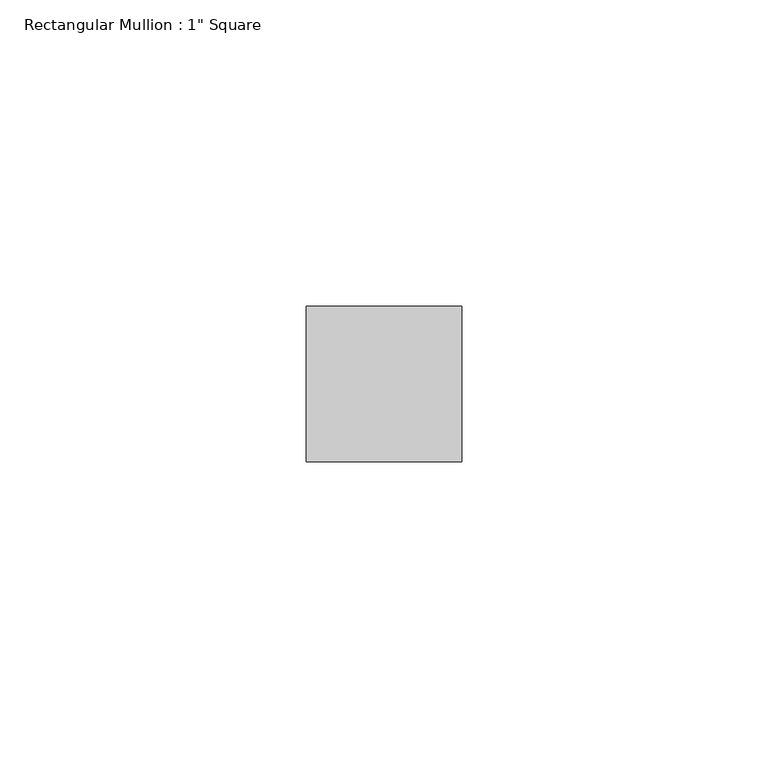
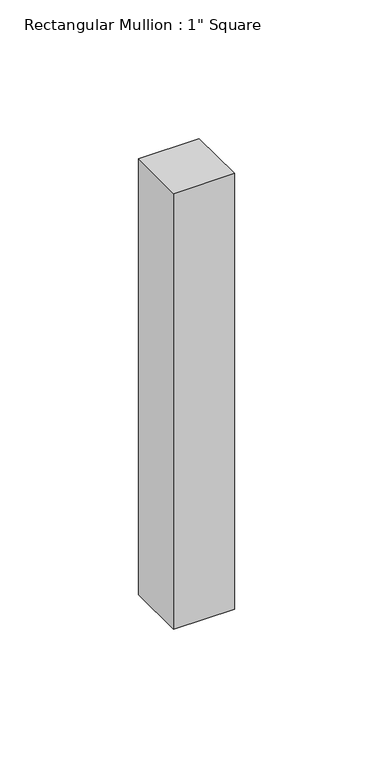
"""IFC4 building model written with IfcOpenShell, lengths in millimetres: member geometry."""

from ifc_helpers import new_model, si_unit, frame, origin, place, context, project, spatial, polyline, outline, extrude, source, transform, mapped, element, save


def member_a0b1ebc8(model_context):
    return source(origin(), model_context, "Body", "SweptSolid", [
        extrude(outline(polyline([(12.7, 12.7), (12.7, -12.7), (-12.7, -12.7), (-12.7, 12.7), (12.7, 12.7)])), frame((0.0, 0.0, -192.0), z_axis=(0.0, 0.0, 1.0), x_axis=(1.0, 0.0, 0.0)), (0.0, 0.0, 1.0), 192.0),
    ])


if __name__ == "__main__":
    model = new_model("IFC4")
    model_context = context("Model", 3, world=origin())
    ifc_project = project(units=[si_unit("LENGTHUNIT", "METRE", prefix="MILLI")], contexts=[model_context])
    site = spatial("IfcSite", under=ifc_project)
    building = spatial("IfcBuilding", under=site)
    placement = place(None, origin())
    member_shape = member_a0b1ebc8(model_context)
    element("IfcMember", 1, ObjectType="Rectangular Mullion : 1\" Square", at=placement, inside=building, context=model_context, shape_type="MappedRepresentation", body=[
        mapped(member_shape, transform((0.0, 0.0, 0.0), x_axis=(1.0, 0.0, 0.0), y_axis=(0.0, 1.0, 0.0), z_axis=(0.0, 0.0, 1.0))),
    ])
    save(model, "model.ifc")
